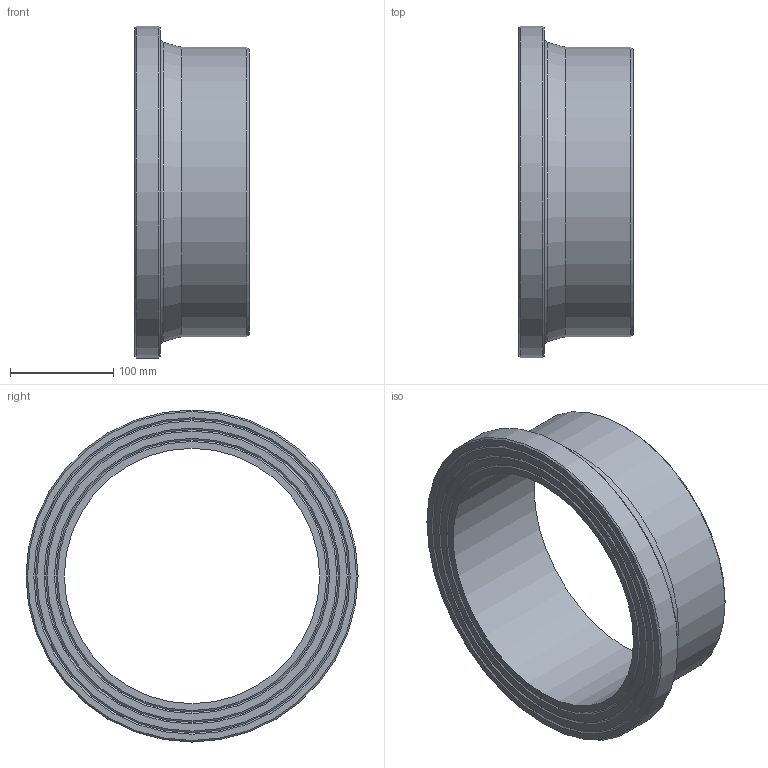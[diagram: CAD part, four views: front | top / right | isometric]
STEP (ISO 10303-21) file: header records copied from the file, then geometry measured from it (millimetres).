
FILE_DESCRIPTION(/* description */ ('Unknown'),/* implementation_level */ '2;1');
FILE_NAME(/* name */ 'CCP280B',/* time_stamp */ '2022-04-04T16:53:09+02:00',/* author */ ('Unknown'),/* organization */ ('Unknown'),/* preprocessor_version */ 'ST-DEVELOPER v18.1',/* originating_system */ 'Solid Edge',/* authorisation */ 'Unknown');
FILE_SCHEMA (('AUTOMOTIVE_DESIGN {1 0 10303 214 3 1 1}'));
Length unit declared in the file: millimetre
Products named in the file (1): CCP280B
Bounding box: 111 x 321 x 321 mm (x, y, z)
Volume: 2049814.5 mm3; surface area: 247221.3 mm2
Topology: 1 solids, 1 shells, 20 faces, 35 edges, 21 vertices
Faces by surface type: cone 10, plane 6, cylinder 3, torus 1
Full cylindrical faces by diameter (mm): 246.8 x1, 280 x1, 321 x1
Entity records: 438 total; most frequent: DIRECTION 82, CARTESIAN_POINT 61, AXIS2_PLACEMENT_3D 41, ORIENTED_EDGE 40, EDGE_LOOP 40, FACE_BOUND 40, EDGE_CURVE 20, VERTEX_POINT 20
